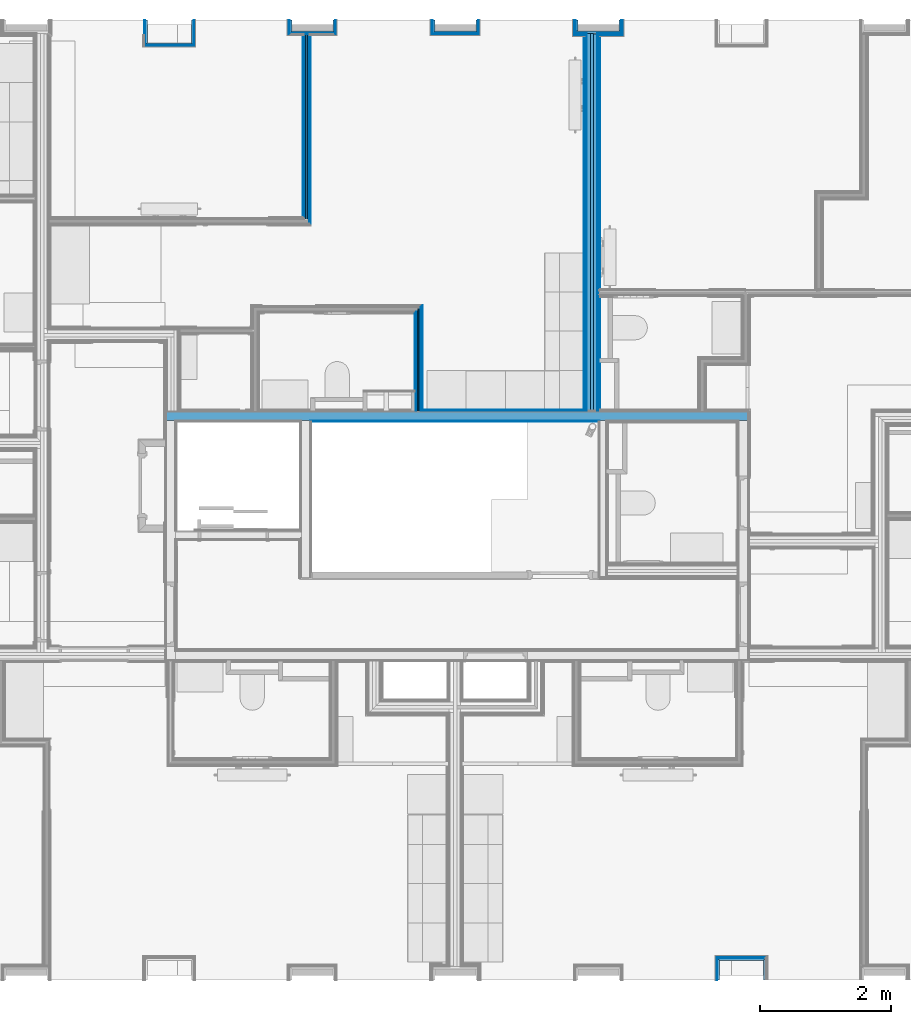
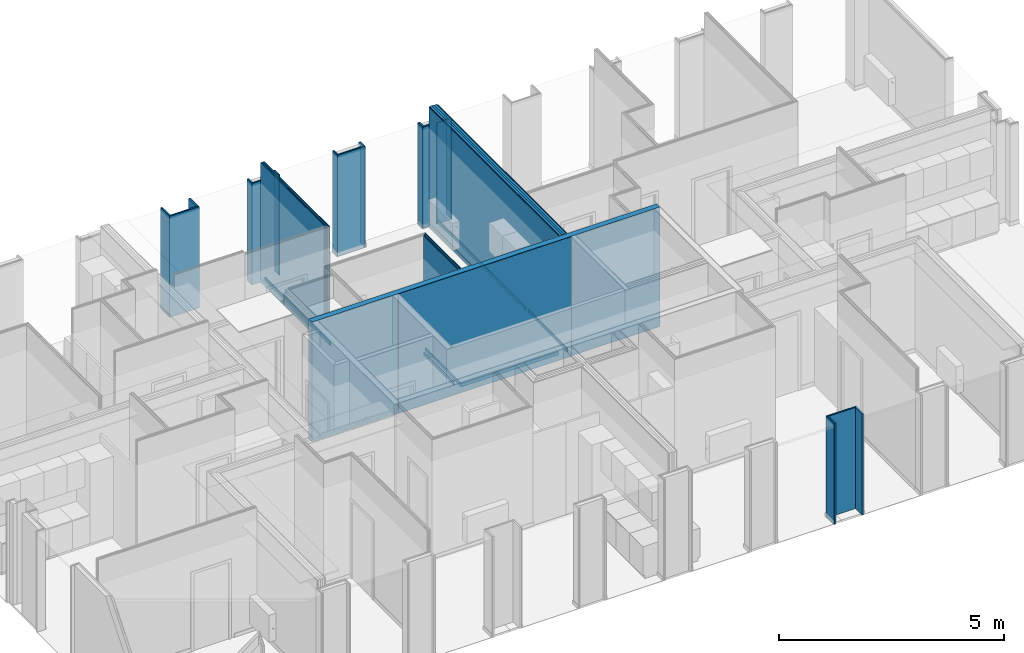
# One storey, part 17 of 64: 61 building element parts, 19 elements without a shape of their own.
"""IFC2X3 building model written with IfcOpenShell, lengths in metres."""

from ifc_helpers import new_model, entity, si_unit, converted_unit, derived_unit, money_unit, direction, frame, frame_2d, origin_with_axes, place, context, subcontext, project, spatial, polyline, rectangle, outline, extrude, material, type_object, element, aggregate, save


model = new_model("IFC2X3")

# Units and contexts
model_context = context("Model", 3, precision=1e-05, world=origin_with_axes(), true_north=direction((0.0, 1.0)))
body_context = subcontext(model_context, "Body", "Model", "MODEL_VIEW", scale=1.0)
ifc_project = project(units=[si_unit("LENGTHUNIT", "METRE"), si_unit("AREAUNIT", "SQUARE_METRE"), si_unit("VOLUMEUNIT", "CUBIC_METRE"), si_unit("ABSORBEDDOSEUNIT", "GRAY"), si_unit("AMOUNTOFSUBSTANCEUNIT", "MOLE"), si_unit("DOSEEQUIVALENTUNIT", "SIEVERT"), si_unit("ELECTRICCAPACITANCEUNIT", "FARAD"), si_unit("ELECTRICCHARGEUNIT", "COULOMB"), si_unit("ELECTRICCONDUCTANCEUNIT", "SIEMENS"), si_unit("ELECTRICCURRENTUNIT", "AMPERE"), si_unit("ELECTRICRESISTANCEUNIT", "OHM"), si_unit("ELECTRICVOLTAGEUNIT", "VOLT"), si_unit("ENERGYUNIT", "JOULE"), si_unit("FORCEUNIT", "NEWTON"), si_unit("FREQUENCYUNIT", "HERTZ"), si_unit("ILLUMINANCEUNIT", "LUX"), si_unit("INDUCTANCEUNIT", "HENRY"), si_unit("LUMINOUSFLUXUNIT", "LUMEN"), si_unit("LUMINOUSINTENSITYUNIT", "CANDELA"), si_unit("MAGNETICFLUXDENSITYUNIT", "TESLA"), si_unit("MAGNETICFLUXUNIT", "WEBER"), si_unit("MASSUNIT", "GRAM"), converted_unit("PLANEANGLEUNIT", "degree", entity("IfcReal", 0.0174532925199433), si_unit("PLANEANGLEUNIT", "RADIAN"), dimensions=[0, 0, 0, 0, 0, 0, 0]), si_unit("POWERUNIT", "WATT"), si_unit("PRESSUREUNIT", "PASCAL"), si_unit("RADIOACTIVITYUNIT", "BECQUEREL"), si_unit("SOLIDANGLEUNIT", "STERADIAN"), si_unit("THERMODYNAMICTEMPERATUREUNIT", "KELVIN"), si_unit("TIMEUNIT", "SECOND"), derived_unit("ACCELERATIONUNIT", [(si_unit("LENGTHUNIT", "METRE"), 1), (si_unit("TIMEUNIT", "SECOND"), -2)]), derived_unit("ANGULARVELOCITYUNIT", [(converted_unit("PLANEANGLEUNIT", "degree", entity("IfcReal", 0.0174532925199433), si_unit("PLANEANGLEUNIT", "RADIAN"), dimensions=[0, 0, 0, 0, 0, 0, 0]), 1), (si_unit("TIMEUNIT", "SECOND"), -1)]), derived_unit("CURVATUREUNIT", [(converted_unit("PLANEANGLEUNIT", "degree", entity("IfcReal", 0.0174532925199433), si_unit("PLANEANGLEUNIT", "RADIAN"), dimensions=[0, 0, 0, 0, 0, 0, 0]), 1), (si_unit("LENGTHUNIT", "METRE"), -1)]), derived_unit("DYNAMICVISCOSITYUNIT", [(si_unit("PRESSUREUNIT", "PASCAL"), 1), (si_unit("TIMEUNIT", "SECOND"), 1)]), derived_unit("HEATFLUXDENSITYUNIT", [(si_unit("POWERUNIT", "WATT"), 1), (si_unit("LENGTHUNIT", "METRE"), -2)]), derived_unit("HEATINGVALUEUNIT", [(si_unit("ENERGYUNIT", "JOULE"), 1), (si_unit("MASSUNIT", "GRAM"), -1)]), derived_unit("INTEGERCOUNTRATEUNIT", [(si_unit("TIMEUNIT", "SECOND"), -1)]), derived_unit("IONCONCENTRATIONUNIT", [(si_unit("MASSUNIT", "GRAM"), 1), (si_unit("VOLUMEUNIT", "CUBIC_METRE"), -1)]), derived_unit("ISOTHERMALMOISTURECAPACITYUNIT", [(si_unit("VOLUMEUNIT", "CUBIC_METRE"), 1), (si_unit("MASSUNIT", "GRAM"), -1)]), derived_unit("KINEMATICVISCOSITYUNIT", [(si_unit("AREAUNIT", "SQUARE_METRE"), 1), (si_unit("TIMEUNIT", "SECOND"), -1)]), derived_unit("LINEARFORCEUNIT", [(si_unit("FORCEUNIT", "NEWTON"), 1), (si_unit("LENGTHUNIT", "METRE"), -1)]), derived_unit("LINEARMOMENTUNIT", [(si_unit("FORCEUNIT", "NEWTON"), 1), (si_unit("LENGTHUNIT", "METRE"), -1)]), derived_unit("LINEARSTIFFNESSUNIT", [(si_unit("FORCEUNIT", "NEWTON"), 1), (si_unit("LENGTHUNIT", "METRE"), -1)]), derived_unit("LINEARVELOCITYUNIT", [(si_unit("LENGTHUNIT", "METRE"), 1), (si_unit("TIMEUNIT", "SECOND"), -1)]), derived_unit("LUMINOUSINTENSITYDISTRIBUTIONUNIT", [(si_unit("LUMINOUSINTENSITYUNIT", "CANDELA"), 1), (si_unit("LUMINOUSFLUXUNIT", "LUMEN"), -1)]), derived_unit("MASSDENSITYUNIT", [(si_unit("MASSUNIT", "GRAM"), 1), (si_unit("VOLUMEUNIT", "CUBIC_METRE"), -1)]), derived_unit("MASSFLOWRATEUNIT", [(si_unit("MASSUNIT", "GRAM"), 1), (si_unit("TIMEUNIT", "SECOND"), -1)]), derived_unit("MASSPERLENGTHUNIT", [(si_unit("MASSUNIT", "GRAM"), 1), (si_unit("LENGTHUNIT", "METRE"), -1)]), derived_unit("MODULUSOFELASTICITYUNIT", [(si_unit("FORCEUNIT", "NEWTON"), 1), (si_unit("AREAUNIT", "SQUARE_METRE"), -1)]), derived_unit("MODULUSOFLINEARSUBGRADEREACTIONUNIT", [(si_unit("FORCEUNIT", "NEWTON"), 1), (si_unit("LENGTHUNIT", "METRE"), -2)]), derived_unit("MODULUSOFROTATIONALSUBGRADEREACTIONUNIT", [(si_unit("FORCEUNIT", "NEWTON"), 1), (si_unit("LENGTHUNIT", "METRE"), 1)]), derived_unit("MODULUSOFSUBGRADEREACTIONUNIT", [(si_unit("FORCEUNIT", "NEWTON"), 1), (si_unit("VOLUMEUNIT", "CUBIC_METRE"), -1)]), derived_unit("MOISTUREDIFFUSIVITYUNIT", [(si_unit("VOLUMEUNIT", "CUBIC_METRE"), 1), (si_unit("TIMEUNIT", "SECOND"), -1)]), derived_unit("MOLECULARWEIGHTUNIT", [(si_unit("MASSUNIT", "GRAM"), 1), (si_unit("AMOUNTOFSUBSTANCEUNIT", "MOLE"), -1)]), derived_unit("PLANARFORCEUNIT", [(si_unit("FORCEUNIT", "NEWTON"), 1), (si_unit("LENGTHUNIT", "METRE"), -2)]), derived_unit("ROTATIONALFREQUENCYUNIT", [(si_unit("TIMEUNIT", "SECOND"), -1)]), derived_unit("ROTATIONALMASSUNIT", [(si_unit("MASSUNIT", "GRAM"), 1), (si_unit("LENGTHUNIT", "METRE"), 2)]), derived_unit("ROTATIONALSTIFFNESSUNIT", [(si_unit("FORCEUNIT", "NEWTON"), 1), (si_unit("LENGTHUNIT", "METRE"), 1), (converted_unit("PLANEANGLEUNIT", "degree", entity("IfcReal", 0.0174532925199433), si_unit("PLANEANGLEUNIT", "RADIAN"), dimensions=[0, 0, 0, 0, 0, 0, 0]), -1)]), derived_unit("SECTIONAREAINTEGRALUNIT", [(si_unit("LENGTHUNIT", "METRE"), 5)]), derived_unit("SECTIONMODULUSUNIT", [(si_unit("LENGTHUNIT", "METRE"), 3)]), derived_unit("SHEARMODULUSUNIT", [(si_unit("FORCEUNIT", "NEWTON"), 1), (si_unit("AREAUNIT", "SQUARE_METRE"), -1)]), derived_unit("SOUNDPOWERUNIT", [(si_unit("ENERGYUNIT", "JOULE"), 1), (si_unit("TIMEUNIT", "SECOND"), -1)]), derived_unit("SPECIFICHEATCAPACITYUNIT", [(si_unit("FORCEUNIT", "NEWTON"), 1), (si_unit("MASSUNIT", "GRAM"), -1), (si_unit("THERMODYNAMICTEMPERATUREUNIT", "KELVIN"), -1)]), derived_unit("TEMPERATUREGRADIENTUNIT", [(si_unit("THERMODYNAMICTEMPERATUREUNIT", "KELVIN"), 1), (si_unit("LENGTHUNIT", "METRE"), -1)]), derived_unit("THERMALADMITTANCEUNIT", [(si_unit("POWERUNIT", "WATT"), 1), (si_unit("AREAUNIT", "SQUARE_METRE"), -1), (si_unit("THERMODYNAMICTEMPERATUREUNIT", "KELVIN"), -1)]), derived_unit("THERMALCONDUCTANCEUNIT", [(si_unit("POWERUNIT", "WATT"), 1), (si_unit("LENGTHUNIT", "METRE"), -1), (si_unit("THERMODYNAMICTEMPERATUREUNIT", "KELVIN"), -1)]), derived_unit("THERMALEXPANSIONCOEFFICIENTUNIT", [(si_unit("THERMODYNAMICTEMPERATUREUNIT", "KELVIN"), -1)]), derived_unit("THERMALRESISTANCEUNIT", [(si_unit("AREAUNIT", "SQUARE_METRE"), 1), (si_unit("POWERUNIT", "WATT"), -1)]), derived_unit("THERMALTRANSMITTANCEUNIT", [(si_unit("POWERUNIT", "WATT"), 1), (si_unit("AREAUNIT", "SQUARE_METRE"), -1), (si_unit("THERMODYNAMICTEMPERATUREUNIT", "KELVIN"), -1)]), derived_unit("TORQUEUNIT", [(si_unit("FORCEUNIT", "NEWTON"), 1), (si_unit("LENGTHUNIT", "METRE"), 1)]), derived_unit("VAPORPERMEABILITYUNIT", [(si_unit("MASSUNIT", "GRAM"), 1), (si_unit("TIMEUNIT", "SECOND"), -1)]), derived_unit("VOLUMETRICFLOWRATEUNIT", [(si_unit("VOLUMEUNIT", "CUBIC_METRE"), 1), (si_unit("TIMEUNIT", "SECOND"), -1)]), derived_unit("WARPINGCONSTANTUNIT", [(si_unit("LENGTHUNIT", "METRE"), 6)]), derived_unit("WARPINGMOMENTUNIT", [(si_unit("FORCEUNIT", "NEWTON"), 1), (si_unit("LENGTHUNIT", "METRE"), 2)]), money_unit("GBP")], contexts=[model_context])

# Site, building, storey
site_placement = place(None, origin_with_axes())
site = spatial("IfcSite", under=ifc_project, at=site_placement, Name="Site", CompositionType="ELEMENT")
building_placement = place(site_placement, origin_with_axes())
building = spatial("IfcBuilding", under=site, at=building_placement, Name="Building01", CompositionType="ELEMENT")
storey_placement = place(building_placement, frame((0.0, 0.0, 8.64), z_axis=(0.0, 0.0, 1.0), x_axis=(1.0, 0.0, 0.0)))
storey = spatial("IfcBuildingStorey", under=building, at=storey_placement, Name="2F", CompositionType="ELEMENT", Elevation=8.64)

# Wall, building element parts
wall_type_1 = type_object("IfcWallType", Name="SHE_A-Walls_Type06d_ExternalWallInsulation_48mm", PredefinedType="NOTDEFINED")
wall_1_placement = place(storey_placement, frame((17.55, 0.1, 0.0), z_axis=(0.0, 0.0, 1.0), x_axis=(0.0, 1.0, 0.0)))
wall_1 = element("IfcWall", 1, at=wall_1_placement, inside=storey, type_object=wall_type_1, Name="6D", ObjectType="SHE_A-Walls_Type06d_ExternalWallInsulation_48mm")
ifc_material_1 = material(Name="A_BSUK_Insulation")
placement_1 = place(wall_1_placement, origin_with_axes())
building_element_part_1 = element("IfcBuildingElementPart", 2, at=placement_1, material=ifc_material_1, Name="1", context=body_context, shape_type="SweptSolid", body=[
    extrude(outline(polyline([(0.336, 0.036), (0.0, 0.036), (0.0, 0.0), (0.3, 0.0), (0.336, 0.036)])), origin_with_axes(), (0.0, 0.0, 1.0), 2.74),
])
ifc_material_2 = material(Name="A_BSUK_WallInternal_Finishes_Plasterboard")
building_element_part_2 = element("IfcBuildingElementPart", 3, at=placement_1, material=ifc_material_2, Name="2", context=body_context, shape_type="SweptSolid", body=[
    extrude(outline(polyline([(0.348, 0.048), (0.0, 0.048), (0.0, 0.035), (0.335, 0.035), (0.348, 0.048)])), origin_with_axes(), (0.0, 0.0, 1.0), 2.74),
])
aggregate(wall_1, [building_element_part_1, building_element_part_2])

wall_2_placement = place(storey_placement, frame((17.55, 0.4, 0.0), z_axis=(0.0, 0.0, 1.0), x_axis=(1.0, 0.0, 0.0)))
wall_2 = element("IfcWall", 4, at=wall_2_placement, inside=storey, type_object=wall_type_1, Name="6D", ObjectType="SHE_A-Walls_Type06d_ExternalWallInsulation_48mm")
placement_2 = place(wall_2_placement, origin_with_axes())
building_element_part_3 = element("IfcBuildingElementPart", 5, at=placement_2, material=ifc_material_1, Name="1", context=body_context, shape_type="SweptSolid", body=[
    extrude(outline(polyline([(0.706, 0.036), (-0.036, 0.036), (0.0, 0.0), (0.67, 0.0), (0.706, 0.036)])), origin_with_axes(), (0.0, 0.0, 1.0), 2.74),
])
building_element_part_4 = element("IfcBuildingElementPart", 6, at=placement_2, material=ifc_material_2, Name="2", context=body_context, shape_type="SweptSolid", body=[
    extrude(outline(polyline([(0.718, 0.048), (-0.048, 0.048), (-0.035, 0.035), (0.705, 0.035), (0.718, 0.048)])), origin_with_axes(), (0.0, 0.0, 1.0), 2.74),
])
aggregate(wall_2, [building_element_part_3, building_element_part_4])

# Wall, building element part
wall_3_placement = place(storey_placement, frame((18.22, 0.4, 0.0), z_axis=(0.0, 0.0, 1.0), x_axis=(0.0, -1.0, 0.0)))
wall_3 = element("IfcWall", 7, at=wall_3_placement, inside=storey, type_object=wall_type_1, Name="6D", ObjectType="SHE_A-Walls_Type06d_ExternalWallInsulation_48mm")
building_element_part_5_placement = place(wall_3_placement, origin_with_axes())
building_element_part_5 = element("IfcBuildingElementPart", 8, at=building_element_part_5_placement, material=ifc_material_1, Name="1", context=body_context, shape_type="SweptSolid", body=[
    extrude(outline(polyline([(-0.036, 0.036), (0.0, 0.0), (0.3, 0.0), (0.3, 0.036), (-0.036, 0.036)])), origin_with_axes(), (0.0, 0.0, 1.0), 2.74),
])
aggregate(wall_3, [building_element_part_5])

# Wall, building element parts
wall_4_placement = place(storey_placement, frame((9.46, 14.8, 0.0), z_axis=(0.0, 0.0, 1.0), x_axis=(0.0, -1.0, 0.0)))
wall_4 = element("IfcWall", 9, at=wall_4_placement, inside=storey, type_object=wall_type_1, Name="6D", ObjectType="SHE_A-Walls_Type06d_ExternalWallInsulation_48mm")
placement_3 = place(wall_4_placement, origin_with_axes())
building_element_part_6 = element("IfcBuildingElementPart", 10, at=placement_3, material=ifc_material_1, Name="1", context=body_context, shape_type="SweptSolid", body=[
    extrude(outline(polyline([(0.386, 0.036), (0.0, 0.036), (0.0, 0.0), (0.35, 0.0), (0.386, 0.036)])), origin_with_axes(), (0.0, 0.0, 1.0), 2.74),
])
building_element_part_7 = element("IfcBuildingElementPart", 11, at=placement_3, material=ifc_material_2, Name="2", context=body_context, shape_type="SweptSolid", body=[
    extrude(outline(polyline([(0.398, 0.048), (0.0, 0.048), (0.0, 0.035), (0.385, 0.035), (0.398, 0.048)])), origin_with_axes(), (0.0, 0.0, 1.0), 2.74),
])
aggregate(wall_4, [building_element_part_6, building_element_part_7])

wall_5_placement = place(storey_placement, frame((9.46, 14.45, 0.0), z_axis=(0.0, 0.0, 1.0), x_axis=(-1.0, 0.0, 0.0)))
wall_5 = element("IfcWall", 12, at=wall_5_placement, inside=storey, type_object=wall_type_1, Name="6D", ObjectType="SHE_A-Walls_Type06d_ExternalWallInsulation_48mm")
placement_4 = place(wall_5_placement, origin_with_axes())
building_element_part_8 = element("IfcBuildingElementPart", 13, at=placement_4, material=ifc_material_1, Name="1", context=body_context, shape_type="SweptSolid", body=[
    extrude(outline(polyline([(0.706, 0.036), (-0.036, 0.036), (0.0, 0.0), (0.67, 0.0), (0.706, 0.036)])), origin_with_axes(), (0.0, 0.0, 1.0), 2.74),
])
building_element_part_9 = element("IfcBuildingElementPart", 14, at=placement_4, material=ifc_material_2, Name="2", context=body_context, shape_type="SweptSolid", body=[
    extrude(outline(polyline([(0.718, 0.048), (-0.048, 0.048), (-0.035, 0.035), (0.705, 0.035), (0.718, 0.048)])), origin_with_axes(), (0.0, 0.0, 1.0), 2.74),
])
aggregate(wall_5, [building_element_part_8, building_element_part_9])

wall_6_placement = place(storey_placement, frame((8.79, 14.45, 0.0), z_axis=(0.0, 0.0, 1.0), x_axis=(0.0, 1.0, 0.0)))
wall_6 = element("IfcWall", 15, at=wall_6_placement, inside=storey, type_object=wall_type_1, Name="6D", ObjectType="SHE_A-Walls_Type06d_ExternalWallInsulation_48mm")
placement_5 = place(wall_6_placement, origin_with_axes())
building_element_part_10 = element("IfcBuildingElementPart", 16, at=placement_5, material=ifc_material_1, Name="1", context=body_context, shape_type="SweptSolid", body=[
    extrude(outline(polyline([(-0.036, 0.036), (0.0, 0.0), (0.35, 0.0), (0.35, 0.036), (-0.036, 0.036)])), origin_with_axes(), (0.0, 0.0, 1.0), 2.74),
])
building_element_part_11 = element("IfcBuildingElementPart", 17, at=placement_5, material=ifc_material_2, Name="2", context=body_context, shape_type="SweptSolid", body=[
    extrude(outline(polyline([(-0.048, 0.048), (-0.035, 0.035), (0.35, 0.035), (0.35, 0.048), (-0.048, 0.048)])), origin_with_axes(), (0.0, 0.0, 1.0), 2.74),
])
aggregate(wall_6, [building_element_part_10, building_element_part_11])

wall_7_placement = place(storey_placement, frame((11.627, 14.8, 0.0), z_axis=(0.0, 0.0, 1.0), x_axis=(0.0, -1.0, 0.0)))
wall_7 = element("IfcWall", 18, at=wall_7_placement, inside=storey, type_object=wall_type_1, Name="6D", ObjectType="SHE_A-Walls_Type06d_ExternalWallInsulation_48mm")
placement_6 = place(wall_7_placement, origin_with_axes())
building_element_part_12 = element("IfcBuildingElementPart", 19, at=placement_6, material=ifc_material_1, Name="1", context=body_context, shape_type="SweptSolid", body=[
    extrude(outline(polyline([(0.206, 0.036), (0.0, 0.036), (0.0, 0.0), (0.17, 0.0), (0.206, 0.036)])), origin_with_axes(), (0.0, 0.0, 1.0), 2.74),
])
building_element_part_13 = element("IfcBuildingElementPart", 20, at=placement_6, material=ifc_material_2, Name="2", context=body_context, shape_type="SweptSolid", body=[
    extrude(outline(polyline([(0.218, 0.048), (0.0, 0.048), (0.0, 0.035), (0.205, 0.035), (0.218, 0.048)])), origin_with_axes(), (0.0, 0.0, 1.0), 2.74),
])
aggregate(wall_7, [building_element_part_12, building_element_part_13])

wall_8_placement = place(storey_placement, frame((11.003, 14.63, 0.0), z_axis=(0.0, 0.0, 1.0), x_axis=(0.0, 1.0, 0.0)))
wall_8 = element("IfcWall", 21, at=wall_8_placement, inside=storey, type_object=wall_type_1, Name="6D", ObjectType="SHE_A-Walls_Type06d_ExternalWallInsulation_48mm")
placement_7 = place(wall_8_placement, origin_with_axes())
building_element_part_14 = element("IfcBuildingElementPart", 22, at=placement_7, material=ifc_material_1, Name="1", context=body_context, shape_type="SweptSolid", body=[
    extrude(outline(polyline([(-0.036, 0.036), (0.0, 0.0), (0.17, 0.0), (0.17, 0.036), (-0.036, 0.036)])), origin_with_axes(), (0.0, 0.0, 1.0), 2.74),
])
building_element_part_15 = element("IfcBuildingElementPart", 23, at=placement_7, material=ifc_material_2, Name="2", context=body_context, shape_type="SweptSolid", body=[
    extrude(outline(polyline([(-0.048, 0.048), (-0.035, 0.035), (0.17, 0.035), (0.17, 0.048), (-0.048, 0.048)])), origin_with_axes(), (0.0, 0.0, 1.0), 2.74),
])
aggregate(wall_8, [building_element_part_14, building_element_part_15])

wall_9_placement = place(storey_placement, frame((13.817, 14.8, 0.0), z_axis=(0.0, 0.0, 1.0), x_axis=(0.0, -1.0, 0.0)))
wall_9 = element("IfcWall", 24, at=wall_9_placement, inside=storey, type_object=wall_type_1, Name="6D", ObjectType="SHE_A-Walls_Type06d_ExternalWallInsulation_48mm")
placement_8 = place(wall_9_placement, origin_with_axes())
building_element_part_16 = element("IfcBuildingElementPart", 25, at=placement_8, material=ifc_material_1, Name="1", context=body_context, shape_type="SweptSolid", body=[
    extrude(outline(polyline([(0.206, 0.036), (0.0, 0.036), (0.0, 0.0), (0.17, 0.0), (0.206, 0.036)])), origin_with_axes(), (0.0, 0.0, 1.0), 2.74),
])
building_element_part_17 = element("IfcBuildingElementPart", 26, at=placement_8, material=ifc_material_2, Name="2", context=body_context, shape_type="SweptSolid", body=[
    extrude(outline(polyline([(0.218, 0.048), (0.0, 0.048), (0.0, 0.035), (0.205, 0.035), (0.218, 0.048)])), origin_with_axes(), (0.0, 0.0, 1.0), 2.74),
])
aggregate(wall_9, [building_element_part_16, building_element_part_17])

wall_10_placement = place(storey_placement, frame((13.817, 14.63, 0.0), z_axis=(0.0, 0.0, 1.0), x_axis=(-1.0, 0.0, 0.0)))
wall_10 = element("IfcWall", 27, at=wall_10_placement, inside=storey, type_object=wall_type_1, Name="6D", ObjectType="SHE_A-Walls_Type06d_ExternalWallInsulation_48mm")
placement_9 = place(wall_10_placement, origin_with_axes())
building_element_part_18 = element("IfcBuildingElementPart", 28, at=placement_9, material=ifc_material_1, Name="1", context=body_context, shape_type="SweptSolid", body=[
    extrude(outline(polyline([(0.66, 0.036), (-0.036, 0.036), (0.0, 0.0), (0.624, 0.0), (0.66, 0.036)])), origin_with_axes(), (0.0, 0.0, 1.0), 2.74),
])
building_element_part_19 = element("IfcBuildingElementPart", 29, at=placement_9, material=ifc_material_2, Name="2", context=body_context, shape_type="SweptSolid", body=[
    extrude(outline(polyline([(0.672, 0.048), (-0.048, 0.048), (-0.035, 0.035), (0.659, 0.035), (0.672, 0.048)])), origin_with_axes(), (0.0, 0.0, 1.0), 2.74),
])
aggregate(wall_10, [building_element_part_18, building_element_part_19])

wall_11_placement = place(storey_placement, frame((13.193, 14.63, 0.0), z_axis=(0.0, 0.0, 1.0), x_axis=(0.0, 1.0, 0.0)))
wall_11 = element("IfcWall", 30, at=wall_11_placement, inside=storey, type_object=wall_type_1, Name="6D", ObjectType="SHE_A-Walls_Type06d_ExternalWallInsulation_48mm")
placement_10 = place(wall_11_placement, origin_with_axes())
building_element_part_20 = element("IfcBuildingElementPart", 31, at=placement_10, material=ifc_material_1, Name="1", context=body_context, shape_type="SweptSolid", body=[
    extrude(outline(polyline([(-0.036, 0.036), (0.0, 0.0), (0.17, 0.0), (0.17, 0.036), (-0.036, 0.036)])), origin_with_axes(), (0.0, 0.0, 1.0), 2.74),
])
building_element_part_21 = element("IfcBuildingElementPart", 32, at=placement_10, material=ifc_material_2, Name="2", context=body_context, shape_type="SweptSolid", body=[
    extrude(outline(polyline([(-0.048, 0.048), (-0.035, 0.035), (0.17, 0.035), (0.17, 0.048), (-0.048, 0.048)])), origin_with_axes(), (0.0, 0.0, 1.0), 2.74),
])
aggregate(wall_11, [building_element_part_20, building_element_part_21])

wall_type_2 = type_object("IfcWallType", Name="SHE_A-Walls_Type05a_Partition_95mm_tall", PredefinedType="NOTDEFINED")
wall_12_placement = place(storey_placement, frame((12.928585, 10.38, 0.0), z_axis=(0.0, 0.0, 1.0), x_axis=(0.0, -1.0, 0.0)))
wall_12 = element("IfcWall", 33, at=wall_12_placement, inside=storey, type_object=wall_type_2, Name="5A", ObjectType="SHE_A-Walls_Type05a_Partition_95mm_tall")
ifc_material_3 = material(Name="A_BSUK_Walls_Timber")
placement_11 = place(wall_12_placement, origin_with_axes())
building_element_part_22 = element("IfcBuildingElementPart", 34, at=placement_11, material=ifc_material_3, Name="1", context=body_context, shape_type="SweptSolid", body=[
    extrude(outline(polyline([(1.426872, -0.035), (0.06, -0.035), (0.075, -0.05), (1.426872, -0.05), (1.426872, -0.035)])), frame((0.0, 0.0, 0.015), z_axis=(0.0, 0.0, 1.0), x_axis=(1.0, 0.0, 0.0)), (0.0, 0.0, 1.0), 0.1),
])
building_element_part_23 = element("IfcBuildingElementPart", 35, at=placement_11, material=ifc_material_2, Name="2", context=body_context, shape_type="SweptSolid", body=[
    extrude(outline(polyline([(1.56, -0.023), (0.048, -0.023), (0.06, -0.035), (1.56, -0.035), (1.56, -0.023)])), origin_with_axes(), (0.0, 0.0, 1.0), 3.24),
])
ifc_material_4 = material(Name="Air Cavity")
building_element_part_24 = element("IfcBuildingElementPart", 36, at=placement_11, material=ifc_material_4, Name="3", context=body_context, shape_type="SweptSolid", body=[
    extrude(outline(polyline([(1.56, 0.0), (0.025, 0.0), (0.048, -0.023), (1.56, -0.023), (1.56, 0.0)])), origin_with_axes(), (0.0, 0.0, 1.0), 3.24),
])
building_element_part_25 = element("IfcBuildingElementPart", 37, at=placement_11, material=ifc_material_1, Name="4", context=body_context, shape_type="SweptSolid", body=[
    extrude(rectangle(XDim=1.56, YDim=0.025, at=frame_2d((0.78, 0.0125), x_axis=(-1.0, 0.0))), origin_with_axes(), (0.0, 0.0, 1.0), 3.24),
])
building_element_part_26 = element("IfcBuildingElementPart", 38, at=placement_11, material=ifc_material_4, Name="5", context=body_context, shape_type="SweptSolid", body=[
    extrude(rectangle(XDim=1.56, YDim=0.023, at=frame_2d((0.78, 0.0365), x_axis=(-1.0, 0.0))), origin_with_axes(), (0.0, 0.0, 1.0), 3.24),
])
building_element_part_27 = element("IfcBuildingElementPart", 39, at=placement_11, material=ifc_material_2, Name="6", context=body_context, shape_type="SweptSolid", body=[
    extrude(outline(polyline([(1.56, 0.06), (-0.035, 0.06), (-0.023, 0.048), (1.56, 0.048), (1.56, 0.06)])), origin_with_axes(), (0.0, 0.0, 1.0), 3.24),
])
building_element_part_28 = element("IfcBuildingElementPart", 40, at=placement_11, material=ifc_material_3, Name="7", context=body_context, shape_type="SweptSolid", body=[
    extrude(outline(polyline([(1.545, 0.075), (-0.05, 0.075), (-0.035, 0.06), (1.545, 0.06), (1.545, 0.075)])), frame((0.0, 0.0, 0.015), z_axis=(0.0, 0.0, 1.0), x_axis=(1.0, 0.0, 0.0)), (0.0, 0.0, 1.0), 0.1),
])
aggregate(wall_12, [building_element_part_22, building_element_part_23, building_element_part_24, building_element_part_25, building_element_part_26, building_element_part_27, building_element_part_28])

wall_type_3 = type_object("IfcWallType", Name="SHE_A-Walls_Type01c_Partywall_225mm_twin_tall", PredefinedType="NOTDEFINED")
wall_13_placement = place(storey_placement, frame((15.620132, 8.82, 0.0), z_axis=(0.0, 0.0, 1.0), x_axis=(0.0, 1.0, 0.0)))
wall_13 = element("IfcWall", 41, at=wall_13_placement, inside=storey, type_object=wall_type_3, Name="1C", ObjectType="SHE_A-Walls_Type01c_Partywall_225mm_twin_tall")
placement_12 = place(wall_13_placement, origin_with_axes())
building_element_part_29 = element("IfcBuildingElementPart", 42, at=placement_12, material=ifc_material_3, Name="1", context=body_context, shape_type="SweptSolid", body=[
    extrude(rectangle(XDim=1.75, YDim=0.015, at=frame_2d((0.875, -0.0955), x_axis=(-1.0, 0.0))), frame((0.0, 0.0, 0.015), z_axis=(0.0, 0.0, 1.0), x_axis=(1.0, 0.0, 0.0)), (0.0, 0.0, 1.0), 0.1),
])
building_element_part_30 = element("IfcBuildingElementPart", 43, at=placement_12, material=ifc_material_3, Name="2", context=body_context, shape_type="SweptSolid", body=[
    extrude(rectangle(XDim=3.902, YDim=0.015, at=frame_2d((3.796, -0.0955), x_axis=(-1.0, 0.0))), frame((0.0, 0.0, 0.015), z_axis=(0.0, 0.0, 1.0), x_axis=(1.0, 0.0, 0.0)), (0.0, 0.0, 1.0), 0.1),
])
building_element_part_31 = element("IfcBuildingElementPart", 44, at=placement_12, material=ifc_material_2, Name="3", context=body_context, shape_type="SweptSolid", body=[
    extrude(rectangle(XDim=5.747, YDim=0.015, at=frame_2d((2.8735, -0.0805), x_axis=(-1.0, 0.0))), origin_with_axes(), (0.0, 0.0, 1.0), 3.24),
])
building_element_part_32 = element("IfcBuildingElementPart", 45, at=placement_12, material=ifc_material_2, Name="4", context=body_context, shape_type="SweptSolid", body=[
    extrude(rectangle(XDim=5.762, YDim=0.015, at=frame_2d((2.881, -0.0655), x_axis=(-1.0, 0.0))), origin_with_axes(), (0.0, 0.0, 1.0), 3.24),
])
building_element_part_33 = element("IfcBuildingElementPart", 46, at=placement_12, material=ifc_material_4, Name="5", context=body_context, shape_type="SweptSolid", body=[
    extrude(rectangle(XDim=5.762, YDim=0.058, at=frame_2d((2.881, -0.029), x_axis=(-1.0, 0.0))), origin_with_axes(), (0.0, 0.0, 1.0), 3.24),
])
building_element_part_34 = element("IfcBuildingElementPart", 47, at=placement_12, material=ifc_material_1, Name="6", context=body_context, shape_type="SweptSolid", body=[
    extrude(rectangle(XDim=5.774, YDim=0.05, at=frame_2d((2.887, 0.025), x_axis=(-1.0, 0.0))), origin_with_axes(), (0.0, 0.0, 1.0), 3.24),
])
building_element_part_35 = element("IfcBuildingElementPart", 48, at=placement_12, material=ifc_material_4, Name="7", context=body_context, shape_type="SweptSolid", body=[
    extrude(rectangle(XDim=5.774, YDim=0.057, at=frame_2d((2.887, 0.0785), x_axis=(-1.0, 0.0))), origin_with_axes(), (0.0, 0.0, 1.0), 3.24),
])
building_element_part_36 = element("IfcBuildingElementPart", 49, at=placement_12, material=ifc_material_2, Name="8", context=body_context, shape_type="SweptSolid", body=[
    extrude(rectangle(XDim=5.762, YDim=0.015, at=frame_2d((2.881, 0.1145), x_axis=(-1.0, 0.0))), origin_with_axes(), (0.0, 0.0, 1.0), 3.24),
])
building_element_part_37 = element("IfcBuildingElementPart", 50, at=placement_12, material=ifc_material_2, Name="9", context=body_context, shape_type="SweptSolid", body=[
    extrude(rectangle(XDim=5.747, YDim=0.015, at=frame_2d((2.8735, 0.1295), x_axis=(-1.0, 0.0))), origin_with_axes(), (0.0, 0.0, 1.0), 3.24),
])
building_element_part_38 = element("IfcBuildingElementPart", 51, at=placement_12, material=ifc_material_3, Name="10", context=body_context, shape_type="SweptSolid", body=[
    extrude(rectangle(XDim=5.717, YDim=0.015, at=frame_2d((2.8735, 0.1445), x_axis=(-1.0, 0.0))), frame((0.0, 0.0, 0.015), z_axis=(0.0, 0.0, 1.0), x_axis=(1.0, 0.0, 0.0)), (0.0, 0.0, 1.0), 0.1),
])
aggregate(wall_13, [building_element_part_29, building_element_part_30, building_element_part_31, building_element_part_32, building_element_part_33, building_element_part_34, building_element_part_35, building_element_part_36, building_element_part_37, building_element_part_38])

wall_14_placement = place(storey_placement, frame((11.627, 14.63, 0.0), z_axis=(0.0, 0.0, 1.0), x_axis=(-1.0, 0.0, 0.0)))
wall_14 = element("IfcWall", 52, at=wall_14_placement, inside=storey, type_object=wall_type_1, Name="6D", ObjectType="SHE_A-Walls_Type06d_ExternalWallInsulation_48mm")
placement_13 = place(wall_14_placement, origin_with_axes())
building_element_part_39 = element("IfcBuildingElementPart", 53, at=placement_13, material=ifc_material_1, Name="1", context=body_context, shape_type="SweptSolid", body=[
    extrude(outline(polyline([(0.66, 0.036), (-0.036, 0.036), (0.0, 0.0), (0.624, 0.0), (0.66, 0.036)])), origin_with_axes(), (0.0, 0.0, 1.0), 2.74),
])
building_element_part_40 = element("IfcBuildingElementPart", 54, at=placement_13, material=ifc_material_2, Name="2", context=body_context, shape_type="SweptSolid", body=[
    extrude(outline(polyline([(0.672, 0.048), (-0.048, 0.048), (-0.035, 0.035), (0.659, 0.035), (0.672, 0.048)])), origin_with_axes(), (0.0, 0.0, 1.0), 2.74),
])
aggregate(wall_14, [building_element_part_39, building_element_part_40])

wall_type_4 = type_object("IfcWallType", Name="SHE_A-Walls_Type03a_BlockworkWall_170mm", PredefinedType="NOTDEFINED")
wall_15_placement = place(storey_placement, frame((17.985, 8.805, 0.0), z_axis=(0.0, 0.0, 1.0), x_axis=(-1.0, 0.0, 0.0)))
wall_15 = element("IfcWall", 55, at=wall_15_placement, inside=storey, type_object=wall_type_4, Name="4B", ObjectType="SHE_A-Walls_Type03a_BlockworkWall_170mm")
placement_14 = place(wall_15_placement, origin_with_axes())
building_element_part_41 = element("IfcBuildingElementPart", 56, at=placement_14, material=ifc_material_3, Name="2", context=body_context, shape_type="SweptSolid", body=[
    extrude(rectangle(XDim=2.494547, YDim=0.015, at=frame_2d((3.749142, -0.0225), x_axis=(-1.0, 0.0))), frame((0.0, 0.0, 0.015), z_axis=(0.0, 0.0, 1.0), x_axis=(1.0, 0.0, 0.0)), (0.0, 0.0, 1.0), 0.1),
])
ifc_material_5 = material(Name="A_BSUK_WallsInternal_Block")
building_element_part_42 = element("IfcBuildingElementPart", 57, at=placement_14, material=ifc_material_5, Name="8", context=body_context, shape_type="SweptSolid", body=[
    extrude(rectangle(XDim=8.91, YDim=0.14, at=frame_2d((4.455, 0.07), x_axis=(-1.0, 0.0))), origin_with_axes(), (0.0, 0.0, 1.0), 3.24),
])
ifc_material_6 = material(Name="A_BSUK_WallInternal_Finishes_Plaster")
building_element_part_43 = element("IfcBuildingElementPart", 58, at=placement_14, material=ifc_material_6, Name="11", context=body_context, shape_type="SweptSolid", body=[
    extrude(rectangle(XDim=4.43, YDim=0.015, at=frame_2d((4.485, 0.1475), x_axis=(-1.0, 0.0))), origin_with_axes(), (0.0, 0.0, 1.0), 3.24),
])
aggregate(wall_15, [building_element_part_41, building_element_part_42, building_element_part_43])

wall_16_placement = place(storey_placement, frame((11.24, 11.728124, 0.0), z_axis=(0.0, 0.0, 1.0), x_axis=(0.0, 1.0, 0.0)))
wall_16 = element("IfcWall", 59, at=wall_16_placement, inside=storey, type_object=wall_type_2, Name="5A", ObjectType="SHE_A-Walls_Type05a_Partition_95mm_tall")
placement_15 = place(wall_16_placement, origin_with_axes())
building_element_part_44 = element("IfcBuildingElementPart", 60, at=placement_15, material=ifc_material_3, Name="1", context=body_context, shape_type="SweptSolid", body=[
    extrude(outline(polyline([(2.838876, -0.035), (-0.06, -0.035), (-0.075, -0.05), (2.838876, -0.05), (2.838876, -0.035)])), frame((0.0, 0.0, 0.015), z_axis=(0.0, 0.0, 1.0), x_axis=(1.0, 0.0, 0.0)), (0.0, 0.0, 1.0), 0.1),
])
building_element_part_45 = element("IfcBuildingElementPart", 61, at=placement_15, material=ifc_material_2, Name="2", context=body_context, shape_type="SweptSolid", body=[
    extrude(outline(polyline([(2.853876, -0.023), (-0.048, -0.023), (-0.06, -0.035), (2.853876, -0.035), (2.853876, -0.023)])), origin_with_axes(), (0.0, 0.0, 1.0), 3.24),
])
building_element_part_46 = element("IfcBuildingElementPart", 62, at=placement_15, material=ifc_material_4, Name="3", context=body_context, shape_type="SweptSolid", body=[
    extrude(outline(polyline([(2.853876, 0.0), (-0.025, 0.0), (-0.048, -0.023), (2.853876, -0.023), (2.853876, 0.0)])), origin_with_axes(), (0.0, 0.0, 1.0), 3.24),
])
building_element_part_47 = element("IfcBuildingElementPart", 63, at=placement_15, material=ifc_material_1, Name="4", context=body_context, shape_type="SweptSolid", body=[
    extrude(rectangle(XDim=2.853876, YDim=0.025, at=frame_2d((1.426938, 0.0125), x_axis=(-1.0, 0.0))), origin_with_axes(), (0.0, 0.0, 1.0), 3.24),
])
building_element_part_48 = element("IfcBuildingElementPart", 64, at=placement_15, material=ifc_material_4, Name="5", context=body_context, shape_type="SweptSolid", body=[
    extrude(rectangle(XDim=2.853876, YDim=0.023, at=frame_2d((1.426938, 0.0365), x_axis=(-1.0, 0.0))), origin_with_axes(), (0.0, 0.0, 1.0), 3.24),
])
building_element_part_49 = element("IfcBuildingElementPart", 65, at=placement_15, material=ifc_material_2, Name="6", context=body_context, shape_type="SweptSolid", body=[
    extrude(outline(polyline([(2.853876, 0.06), (0.035, 0.06), (0.023, 0.048), (2.853876, 0.048), (2.853876, 0.06)])), origin_with_axes(), (0.0, 0.0, 1.0), 3.24),
])
building_element_part_50 = element("IfcBuildingElementPart", 66, at=placement_15, material=ifc_material_3, Name="7", context=body_context, shape_type="SweptSolid", body=[
    extrude(outline(polyline([(2.838876, 0.075), (0.05, 0.075), (0.035, 0.06), (2.838876, 0.06), (2.838876, 0.075)])), frame((0.0, 0.0, 0.015), z_axis=(0.0, 0.0, 1.0), x_axis=(1.0, 0.0, 0.0)), (0.0, 0.0, 1.0), 0.1),
])
aggregate(wall_16, [building_element_part_44, building_element_part_45, building_element_part_46, building_element_part_47, building_element_part_48, building_element_part_49, building_element_part_50])

wall_type_5 = type_object("IfcWallType", Name="SHE_A-Walls_Type06f_ExternalWallInsulation_48+15mm", PredefinedType="NOTDEFINED")
wall_17_placement = place(storey_placement, frame((15.383, 14.63, 0.0), z_axis=(0.0, 0.0, 1.0), x_axis=(0.0, 1.0, 0.0)))
wall_17 = element("IfcWall", 67, at=wall_17_placement, inside=storey, type_object=wall_type_5, Name="6F", ObjectType="SHE_A-Walls_Type06f_ExternalWallInsulation_48+15mm")
placement_16 = place(wall_17_placement, origin_with_axes())
building_element_part_51 = element("IfcBuildingElementPart", 68, at=placement_16, material=ifc_material_1, Name="1", context=body_context, shape_type="SweptSolid", body=[
    extrude(rectangle(XDim=0.17, YDim=0.036, at=frame_2d((0.085, 0.018), x_axis=(-1.0, 0.0))), origin_with_axes(), (0.0, 0.0, 1.0), 2.74),
])
building_element_part_52 = element("IfcBuildingElementPart", 69, at=placement_16, material=ifc_material_2, Name="2", context=body_context, shape_type="SweptSolid", body=[
    extrude(rectangle(XDim=0.206, YDim=0.012, at=frame_2d((0.067, 0.042), x_axis=(-1.0, 0.0))), origin_with_axes(), (0.0, 0.0, 1.0), 2.74),
])
building_element_part_53 = element("IfcBuildingElementPart", 70, at=placement_16, material=ifc_material_2, Name="3", context=body_context, shape_type="SweptSolid", body=[
    extrude(outline(polyline([(0.17, 0.063), (-0.063, 0.063), (-0.048, 0.048), (0.17, 0.048), (0.17, 0.063)])), origin_with_axes(), (0.0, 0.0, 1.0), 2.74),
])
aggregate(wall_17, [building_element_part_51, building_element_part_52, building_element_part_53])

wall_18_placement = place(storey_placement, frame((16.043124, 14.63, 0.0), z_axis=(0.0, 0.0, 1.0), x_axis=(-1.0, 0.0, 0.0)))
wall_18 = element("IfcWall", 71, at=wall_18_placement, inside=storey, type_object=wall_type_5, Name="6F", ObjectType="SHE_A-Walls_Type06f_ExternalWallInsulation_48+15mm")
placement_17 = place(wall_18_placement, origin_with_axes())
building_element_part_54 = element("IfcBuildingElementPart", 72, at=placement_17, material=ifc_material_1, Name="1", context=body_context, shape_type="SweptSolid", body=[
    extrude(rectangle(XDim=0.696124, YDim=0.036, at=frame_2d((0.348062, 0.018), x_axis=(-1.0, 0.0))), origin_with_axes(), (0.0, 0.0, 1.0), 2.74),
])
building_element_part_55 = element("IfcBuildingElementPart", 73, at=placement_17, material=ifc_material_2, Name="2", context=body_context, shape_type="SweptSolid", body=[
    extrude(rectangle(XDim=0.178132, YDim=0.012, at=frame_2d((0.619058, 0.042), x_axis=(-1.0, 0.0))), origin_with_axes(), (0.0, 0.0, 1.0), 2.74),
])
building_element_part_56 = element("IfcBuildingElementPart", 74, at=placement_17, material=ifc_material_2, Name="3", context=body_context, shape_type="SweptSolid", body=[
    extrude(rectangle(XDim=0.364992, YDim=0.012, at=frame_2d((0.182496, 0.042), x_axis=(-1.0, 0.0))), origin_with_axes(), (0.0, 0.0, 1.0), 2.74),
])
building_element_part_57 = element("IfcBuildingElementPart", 75, at=placement_17, material=ifc_material_2, Name="4", context=body_context, shape_type="SweptSolid", body=[
    extrude(outline(polyline([(0.349992, 0.063), (-0.027, 0.063), (-0.012, 0.048), (0.349992, 0.048), (0.349992, 0.063)])), origin_with_axes(), (0.0, 0.0, 1.0), 2.74),
])
building_element_part_58 = element("IfcBuildingElementPart", 76, at=placement_17, material=ifc_material_2, Name="5", context=body_context, shape_type="SweptSolid", body=[
    extrude(outline(polyline([(0.723124, 0.063), (0.544992, 0.063), (0.544992, 0.048), (0.708124, 0.048), (0.723124, 0.063)])), origin_with_axes(), (0.0, 0.0, 1.0), 2.74),
])
aggregate(wall_18, [building_element_part_54, building_element_part_55, building_element_part_56, building_element_part_57, building_element_part_58])

wall_19_placement = place(storey_placement, frame((16.007124, 14.63, 0.0), z_axis=(0.0, 0.0, 1.0), x_axis=(0.0, 1.0, 0.0)))
wall_19 = element("IfcWall", 77, at=wall_19_placement, inside=storey, type_object=wall_type_5, Name="6F", ObjectType="SHE_A-Walls_Type06f_ExternalWallInsulation_48+15mm")
placement_18 = place(wall_19_placement, origin_with_axes())
building_element_part_59 = element("IfcBuildingElementPart", 78, at=placement_18, material=ifc_material_2, Name="2", context=body_context, shape_type="SweptSolid", body=[
    extrude(outline(polyline([(0.17, -0.048), (-0.048, -0.048), (-0.063, -0.063), (0.17, -0.063), (0.17, -0.048)])), origin_with_axes(), (0.0, 0.0, 1.0), 2.74),
])
building_element_part_60 = element("IfcBuildingElementPart", 79, at=placement_18, material=ifc_material_2, Name="3", context=body_context, shape_type="SweptSolid", body=[
    extrude(rectangle(XDim=0.218, YDim=0.012, at=frame_2d((0.061, -0.042), x_axis=(-1.0, 0.0))), origin_with_axes(), (0.0, 0.0, 1.0), 2.74),
])
building_element_part_61 = element("IfcBuildingElementPart", 80, at=placement_18, material=ifc_material_1, Name="4", context=body_context, shape_type="SweptSolid", body=[
    extrude(rectangle(XDim=0.17, YDim=0.036, at=frame_2d((0.085, -0.018), x_axis=(-1.0, 0.0))), origin_with_axes(), (0.0, 0.0, 1.0), 2.74),
])
aggregate(wall_19, [building_element_part_59, building_element_part_60, building_element_part_61])

save(model, "model.ifc")
